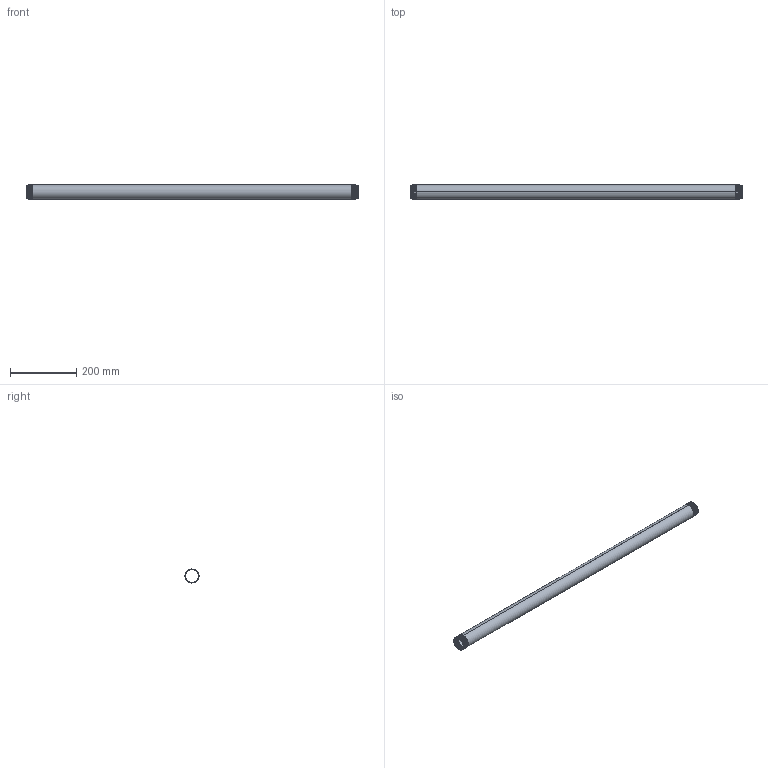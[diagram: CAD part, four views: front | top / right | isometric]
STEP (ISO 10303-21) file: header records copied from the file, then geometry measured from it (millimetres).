
FILE_DESCRIPTION (( 'STEP AP203' ), '1' );
FILE_NAME ('3D_R210_1 1-4x1000_17191630.STEP', '2024-08-16T14:54:01', ( '' ), ( '' ), 'SwSTEP 2.0', 'SolidWorks 2024', '' );
FILE_SCHEMA (( 'CONFIG_CONTROL_DESIGN' ));
Length unit declared in the file: millimetre
Products named in the file (1): 3D_R210_1 1-4x1000_17191630
Bounding box: 1000 x 42.38 x 42.4 mm (x, y, z)
Volume: 252103 mm3; surface area: 256914 mm2
Topology: 1 solids, 1 shells, 70 faces, 198 edges, 130 vertices
Faces by surface type: cone 56, bspline 6, cylinder 4, plane 4
Entity records: 11969 total; most frequent: CARTESIAN_POINT 10337, ORIENTED_EDGE 396, DIRECTION 218, EDGE_CURVE 198, VERTEX_POINT 130, B_SPLINE_CURVE_WITH_KNOTS 114, AXIS2_PLACEMENT_3D 77, EDGE_LOOP 72
